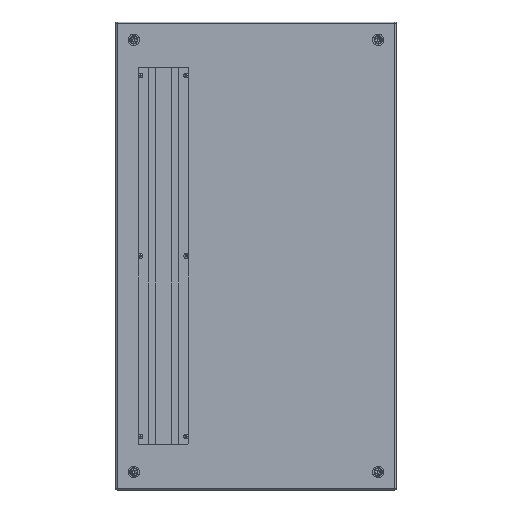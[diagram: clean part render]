
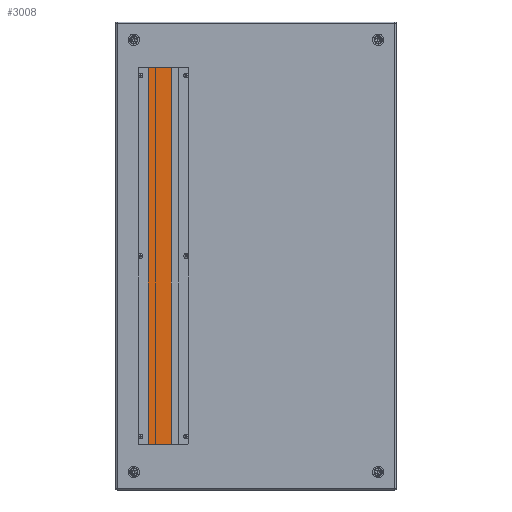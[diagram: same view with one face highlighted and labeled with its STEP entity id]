
A CAD part, top view. The second image highlights one B-rep face of the part: STEP entity #3008.
In plain terms, the highlighted planar face has unit normal (0, 0, 1).
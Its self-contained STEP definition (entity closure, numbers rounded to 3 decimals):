
#3008=ADVANCED_FACE('',(#17768),#17770,.T.);
#17768=FACE_BOUND('',#17769,.T.);
#17769=EDGE_LOOP('',(#25569,#25570,#25571,#25572));
#17770=PLANE('',#17771);
#17771=AXIS2_PLACEMENT_3D('',#17772,#17773,#17774);
#17772=CARTESIAN_POINT('',(-71.,-401.,0.));
#17773=DIRECTION('',(0.,0.,1.));
#17774=DIRECTION('',(1.,0.,0.));
#25569=ORIENTED_EDGE('',*,*,#29481,.T.);
#25570=ORIENTED_EDGE('',*,*,#29468,.T.);
#25571=ORIENTED_EDGE('',*,*,#29482,.F.);
#25572=ORIENTED_EDGE('',*,*,#29479,.F.);
#29468=EDGE_CURVE('',#35943,#35948,#35950,.T.);
#29479=EDGE_CURVE('',#35966,#35968,#35969,.T.);
#29481=EDGE_CURVE('',#35966,#35943,#35971,.T.);
#29482=EDGE_CURVE('',#35968,#35948,#35972,.T.);
#35943=VERTEX_POINT('',#52283);
#35948=VERTEX_POINT('',#52292);
#35950=LINE('',#52296,#52297);
#35966=VERTEX_POINT('',#52332);
#35968=VERTEX_POINT('',#52336);
#35969=LINE('',#52337,#52338);
#35971=LINE('',#52343,#52344);
#35972=LINE('',#52346,#52347);
#52283=CARTESIAN_POINT('',(-21.,-401.,0.));
#52292=CARTESIAN_POINT('',(-21.,401.,0.));
#52296=CARTESIAN_POINT('',(-21.,-401.,0.));
#52297=VECTOR('',#52298,1.);
#52298=DIRECTION('',(0.,1.,0.));
#52332=CARTESIAN_POINT('',(-71.,-401.,0.));
#52336=CARTESIAN_POINT('',(-71.,401.,0.));
#52337=CARTESIAN_POINT('',(-71.,-401.,0.));
#52338=VECTOR('',#52339,1.);
#52339=DIRECTION('',(0.,1.,0.));
#52343=CARTESIAN_POINT('',(-71.,-401.,0.));
#52344=VECTOR('',#52345,1.);
#52345=DIRECTION('',(1.,0.,0.));
#52346=CARTESIAN_POINT('',(-71.,401.,0.));
#52347=VECTOR('',#52348,1.);
#52348=DIRECTION('',(1.,0.,0.));
